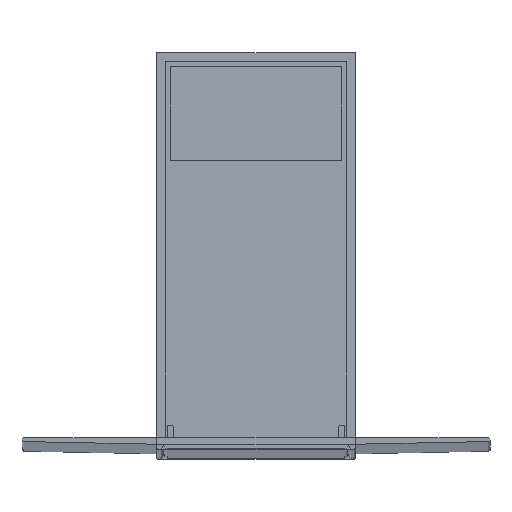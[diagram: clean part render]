
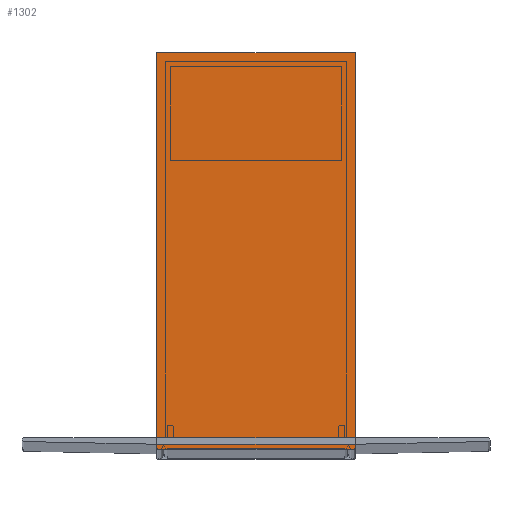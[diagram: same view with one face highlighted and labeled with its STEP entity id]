
A CAD part, top view. The second image highlights one B-rep face of the part: STEP entity #1302.
In plain terms, the highlighted planar face has unit normal (0, 0, 1).
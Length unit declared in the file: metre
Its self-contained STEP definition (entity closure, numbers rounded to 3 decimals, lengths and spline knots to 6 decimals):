
#57=CIRCLE('',#1419,0.0002);
#58=CIRCLE('',#1420,0.0002);
#100=FACE_OUTER_BOUND('',#176,.T.);
#176=EDGE_LOOP('',(#971,#972,#973,#974,#975,#976));
#279=LINE('',#2000,#433);
#280=LINE('',#2004,#434);
#281=LINE('',#2006,#435);
#282=LINE('',#2008,#436);
#433=VECTOR('',#1621,0.0422);
#434=VECTOR('',#1624,0.0848);
#435=VECTOR('',#1625,0.0426);
#436=VECTOR('',#1626,0.0848);
#581=VERTEX_POINT('',#1998);
#582=VERTEX_POINT('',#1999);
#583=VERTEX_POINT('',#2001);
#584=VERTEX_POINT('',#2003);
#585=VERTEX_POINT('',#2005);
#586=VERTEX_POINT('',#2007);
#725=EDGE_CURVE('',#581,#582,#279,.T.);
#726=EDGE_CURVE('',#582,#583,#57,.T.);
#727=EDGE_CURVE('',#583,#584,#280,.T.);
#728=EDGE_CURVE('',#584,#585,#281,.F.);
#729=EDGE_CURVE('',#585,#586,#282,.F.);
#730=EDGE_CURVE('',#586,#581,#58,.T.);
#971=ORIENTED_EDGE('',*,*,#725,.T.);
#972=ORIENTED_EDGE('',*,*,#726,.T.);
#973=ORIENTED_EDGE('',*,*,#727,.T.);
#974=ORIENTED_EDGE('',*,*,#728,.T.);
#975=ORIENTED_EDGE('',*,*,#729,.T.);
#976=ORIENTED_EDGE('',*,*,#730,.T.);
#1236=PLANE('',#1418);
#1302=ADVANCED_FACE('',(#100),#1236,.T.);
#1418=AXIS2_PLACEMENT_3D('',#1997,#1619,#1620);
#1419=AXIS2_PLACEMENT_3D('',#2002,#1622,#1623);
#1420=AXIS2_PLACEMENT_3D('',#2009,#1627,#1628);
#1619=DIRECTION('center_axis',(0.,0.,1.));
#1620=DIRECTION('ref_axis',(1.,0.,0.));
#1621=DIRECTION('',(1.,0.,0.));
#1622=DIRECTION('center_axis',(0.,0.,1.));
#1623=DIRECTION('ref_axis',(1.,0.,0.));
#1624=DIRECTION('',(0.,1.,0.));
#1625=DIRECTION('',(1.,0.,0.));
#1626=DIRECTION('',(0.,1.,0.));
#1627=DIRECTION('center_axis',(0.,0.,1.));
#1628=DIRECTION('ref_axis',(1.,0.,0.));
#1997=CARTESIAN_POINT('Origin',(0.0225,0.0093,0.59425));
#1998=CARTESIAN_POINT('',(-0.0211,0.,0.59425));
#1999=CARTESIAN_POINT('',(0.0211,0.,0.59425));
#2000=CARTESIAN_POINT('',(-0.0211,0.,0.59425));
#2001=CARTESIAN_POINT('',(0.0213,0.0002,0.59425));
#2002=CARTESIAN_POINT('Origin',(0.0211,0.0002,
0.59425));
#2003=CARTESIAN_POINT('',(0.0213,0.085,0.59425));
#2004=CARTESIAN_POINT('',(0.0213,0.0002,0.59425));
#2005=CARTESIAN_POINT('',(-0.0213,0.085,0.59425));
#2006=CARTESIAN_POINT('',(-0.0213,0.085,0.59425));
#2007=CARTESIAN_POINT('',(-0.0213,0.0002,0.59425));
#2008=CARTESIAN_POINT('',(-0.0213,0.0002,0.59425));
#2009=CARTESIAN_POINT('Origin',(-0.0211,0.0002,
0.59425));
